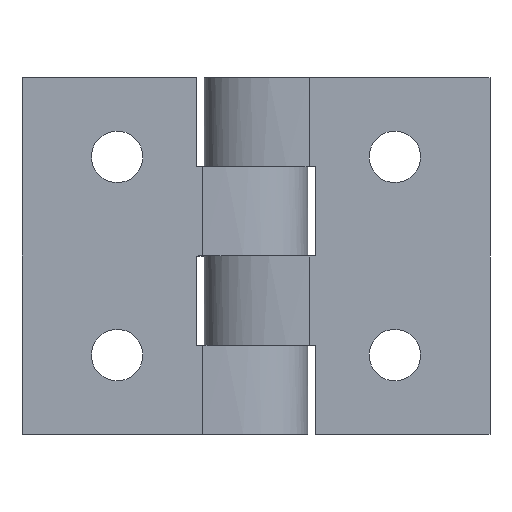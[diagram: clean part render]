
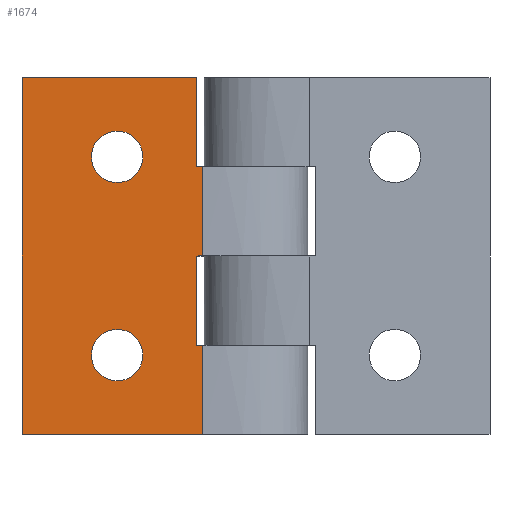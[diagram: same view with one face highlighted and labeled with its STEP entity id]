
A CAD part, front view. The second image highlights one B-rep face of the part: STEP entity #1674.
In plain terms, the highlighted planar face has unit normal (0, -1, 0).
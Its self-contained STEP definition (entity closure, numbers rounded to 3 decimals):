
#35 = CARTESIAN_POINT ( 'NONE',  ( 6.374, -5.199, 67.5 ) ) ;
#57 = EDGE_CURVE ( 'NONE', #895, #1514, #1770, .T. ) ;
#71 = DIRECTION ( 'NONE',  ( 0., 1., 0. ) ) ;
#76 = LINE ( 'NONE', #2007, #2034 ) ;
#122 = EDGE_CURVE ( 'NONE', #1059, #1448, #1355, .T. ) ;
#133 = CARTESIAN_POINT ( 'NONE',  ( -0.386, -5.199, 57.5 ) ) ;
#167 = CARTESIAN_POINT ( 'NONE',  ( 7.173, -5.199, 45. ) ) ;
#173 = DIRECTION ( 'NONE',  ( 0., 1., 0. ) ) ;
#180 = ORIENTED_EDGE ( 'NONE', *, *, #1062, .T. ) ;
#183 = AXIS2_PLACEMENT_3D ( 'NONE', #978, #760, #532 ) ;
#191 = ORIENTED_EDGE ( 'NONE', *, *, #878, .T. ) ;
#205 = EDGE_CURVE ( 'NONE', #1514, #1059, #638, .T. ) ;
#241 = VECTOR ( 'NONE', #909, 1000. ) ;
#249 = LINE ( 'NONE', #35, #1098 ) ;
#312 = CIRCLE ( 'NONE', #1585, 3.25 ) ;
#324 = FACE_BOUND ( 'NONE', #475, .T. ) ;
#335 = AXIS2_PLACEMENT_3D ( 'NONE', #1845, #1627, #1402 ) ;
#386 = CARTESIAN_POINT ( 'NONE',  ( 6.374, -5.199, 45. ) ) ;
#388 = AXIS2_PLACEMENT_3D ( 'NONE', #507, #71, #2004 ) ;
#466 = VECTOR ( 'NONE', #1447, 1000. ) ;
#475 = EDGE_LOOP ( 'NONE', ( #1919, #180 ) ) ;
#476 = CARTESIAN_POINT ( 'NONE',  ( -0.386, -5.199, 32.5 ) ) ;
#486 = VERTEX_POINT ( 'NONE', #1047 ) ;
#505 = ORIENTED_EDGE ( 'NONE', *, *, #932, .F. ) ;
#507 = CARTESIAN_POINT ( 'NONE',  ( -3.636, -5.199, 32.5 ) ) ;
#511 = DIRECTION ( 'NONE',  ( 0., 0., -1. ) ) ;
#532 = DIRECTION ( 'NONE',  ( -1., 0., 0. ) ) ;
#541 = EDGE_CURVE ( 'NONE', #486, #1384, #1884, .T. ) ;
#549 = FACE_BOUND ( 'NONE', #1147, .T. ) ;
#582 = VECTOR ( 'NONE', #1912, 1000. ) ;
#615 = ORIENTED_EDGE ( 'NONE', *, *, #2076, .F. ) ;
#634 = DIRECTION ( 'NONE',  ( -1., 0., 0. ) ) ;
#638 = LINE ( 'NONE', #2128, #582 ) ;
#643 = ORIENTED_EDGE ( 'NONE', *, *, #541, .T. ) ;
#663 = EDGE_CURVE ( 'NONE', #1701, #1256, #1207, .T. ) ;
#666 = FACE_OUTER_BOUND ( 'NONE', #1819, .T. ) ;
#712 = CIRCLE ( 'NONE', #183, 3.25 ) ;
#714 = EDGE_CURVE ( 'NONE', #902, #1124, #1546, .T. ) ;
#733 = ORIENTED_EDGE ( 'NONE', *, *, #1004, .F. ) ;
#738 = CARTESIAN_POINT ( 'NONE',  ( -15.636, -5.199, 67.5 ) ) ;
#760 = DIRECTION ( 'NONE',  ( 0., 1., 0. ) ) ;
#761 = ORIENTED_EDGE ( 'NONE', *, *, #1271, .F. ) ;
#763 = CARTESIAN_POINT ( 'NONE',  ( 6.374, -5.199, 56.25 ) ) ;
#780 = AXIS2_PLACEMENT_3D ( 'NONE', #1074, #856, #634 ) ;
#799 = ORIENTED_EDGE ( 'NONE', *, *, #57, .F. ) ;
#800 = CARTESIAN_POINT ( 'NONE',  ( -6.886, -5.199, 32.5 ) ) ;
#839 = CARTESIAN_POINT ( 'NONE',  ( -3.636, -5.199, 57.5 ) ) ;
#856 = DIRECTION ( 'NONE',  ( 0., 1., 0. ) ) ;
#871 = VERTEX_POINT ( 'NONE', #1198 ) ;
#878 = EDGE_CURVE ( 'NONE', #1124, #902, #712, .T. ) ;
#883 = ORIENTED_EDGE ( 'NONE', *, *, #1926, .T. ) ;
#895 = VERTEX_POINT ( 'NONE', #1598 ) ;
#902 = VERTEX_POINT ( 'NONE', #476 ) ;
#909 = DIRECTION ( 'NONE',  ( 0., 0., -1. ) ) ;
#910 = VECTOR ( 'NONE', #1664, 1000. ) ;
#932 = EDGE_CURVE ( 'NONE', #1722, #1501, #2096, .T. ) ;
#962 = LINE ( 'NONE', #738, #1521 ) ;
#978 = CARTESIAN_POINT ( 'NONE',  ( -3.636, -5.199, 32.5 ) ) ;
#1004 = EDGE_CURVE ( 'NONE', #1790, #895, #1556, .T. ) ;
#1023 = CARTESIAN_POINT ( 'NONE',  ( -15.636, -5.199, 67.5 ) ) ;
#1047 = CARTESIAN_POINT ( 'NONE',  ( -15.636, -5.199, 22.5 ) ) ;
#1059 = VERTEX_POINT ( 'NONE', #386 ) ;
#1062 = EDGE_CURVE ( 'NONE', #1256, #1701, #312, .T. ) ;
#1074 = CARTESIAN_POINT ( 'NONE',  ( 7.173, -5.199, 67.5 ) ) ;
#1097 = DIRECTION ( 'NONE',  ( 0., 0., -1. ) ) ;
#1098 = VECTOR ( 'NONE', #1971, 1000. ) ;
#1109 = DIRECTION ( 'NONE',  ( 1., 0., 0. ) ) ;
#1124 = VERTEX_POINT ( 'NONE', #800 ) ;
#1131 = CARTESIAN_POINT ( 'NONE',  ( 6.374, -5.199, 45. ) ) ;
#1147 = EDGE_LOOP ( 'NONE', ( #191, #1958 ) ) ;
#1181 = VECTOR ( 'NONE', #1097, 1000. ) ;
#1197 = ORIENTED_EDGE ( 'NONE', *, *, #205, .F. ) ;
#1198 = CARTESIAN_POINT ( 'NONE',  ( 7.173, -5.199, 33.75 ) ) ;
#1206 = VECTOR ( 'NONE', #1310, 1000. ) ;
#1207 = CIRCLE ( 'NONE', #335, 3.25 ) ;
#1256 = VERTEX_POINT ( 'NONE', #133 ) ;
#1271 = EDGE_CURVE ( 'NONE', #1448, #871, #76, .T. ) ;
#1298 = PLANE ( 'NONE',  #780 ) ;
#1310 = DIRECTION ( 'NONE',  ( 0., 0., -1. ) ) ;
#1316 = CARTESIAN_POINT ( 'NONE',  ( 7.173, -5.199, 67.5 ) ) ;
#1332 = CARTESIAN_POINT ( 'NONE',  ( 20.374, -5.199, 56.25 ) ) ;
#1355 = LINE ( 'NONE', #1131, #241 ) ;
#1380 = CARTESIAN_POINT ( 'NONE',  ( 6.374, -5.199, 33.75 ) ) ;
#1384 = VERTEX_POINT ( 'NONE', #1420 ) ;
#1402 = DIRECTION ( 'NONE',  ( -1., 0., 0. ) ) ;
#1418 = VECTOR ( 'NONE', #1109, 1000. ) ;
#1420 = CARTESIAN_POINT ( 'NONE',  ( 7.173, -5.199, 22.5 ) ) ;
#1447 = DIRECTION ( 'NONE',  ( 1., 0., 0. ) ) ;
#1448 = VERTEX_POINT ( 'NONE', #1380 ) ;
#1453 = ORIENTED_EDGE ( 'NONE', *, *, #122, .F. ) ;
#1501 = VERTEX_POINT ( 'NONE', #1719 ) ;
#1514 = VERTEX_POINT ( 'NONE', #167 ) ;
#1521 = VECTOR ( 'NONE', #511, 1000. ) ;
#1535 = CARTESIAN_POINT ( 'NONE',  ( 7.173, -5.199, 67.5 ) ) ;
#1546 = CIRCLE ( 'NONE', #388, 3.25 ) ;
#1556 = LINE ( 'NONE', #1332, #1418 ) ;
#1585 = AXIS2_PLACEMENT_3D ( 'NONE', #839, #173, #2110 ) ;
#1598 = CARTESIAN_POINT ( 'NONE',  ( 7.173, -5.199, 56.25 ) ) ;
#1627 = DIRECTION ( 'NONE',  ( 0., 1., 0. ) ) ;
#1664 = DIRECTION ( 'NONE',  ( 1., 0., 0. ) ) ;
#1665 = CARTESIAN_POINT ( 'NONE',  ( 7.173, -5.199, 22.5 ) ) ;
#1674 = ADVANCED_FACE ( 'NONE', ( #324, #549, #666 ), #1298, .F. ) ;
#1701 = VERTEX_POINT ( 'NONE', #2125 ) ;
#1719 = CARTESIAN_POINT ( 'NONE',  ( 6.374, -5.199, 67.5 ) ) ;
#1722 = VERTEX_POINT ( 'NONE', #1023 ) ;
#1762 = LINE ( 'NONE', #1535, #1206 ) ;
#1770 = LINE ( 'NONE', #1316, #1181 ) ;
#1790 = VERTEX_POINT ( 'NONE', #763 ) ;
#1800 = DIRECTION ( 'NONE',  ( 1., 0., 0. ) ) ;
#1819 = EDGE_LOOP ( 'NONE', ( #615, #761, #1453, #1197, #799, #733, #1991, #505, #883, #643 ) ) ;
#1845 = CARTESIAN_POINT ( 'NONE',  ( -3.636, -5.199, 57.5 ) ) ;
#1883 = CARTESIAN_POINT ( 'NONE',  ( 7.173, -5.199, 67.5 ) ) ;
#1884 = LINE ( 'NONE', #1665, #466 ) ;
#1912 = DIRECTION ( 'NONE',  ( -1., 0., 0. ) ) ;
#1919 = ORIENTED_EDGE ( 'NONE', *, *, #663, .T. ) ;
#1926 = EDGE_CURVE ( 'NONE', #1722, #486, #962, .T. ) ;
#1958 = ORIENTED_EDGE ( 'NONE', *, *, #714, .T. ) ;
#1971 = DIRECTION ( 'NONE',  ( 0., 0., -1. ) ) ;
#1991 = ORIENTED_EDGE ( 'NONE', *, *, #2069, .F. ) ;
#2004 = DIRECTION ( 'NONE',  ( -1., 0., 0. ) ) ;
#2007 = CARTESIAN_POINT ( 'NONE',  ( 20.374, -5.199, 33.75 ) ) ;
#2034 = VECTOR ( 'NONE', #1800, 1000. ) ;
#2069 = EDGE_CURVE ( 'NONE', #1501, #1790, #249, .T. ) ;
#2076 = EDGE_CURVE ( 'NONE', #871, #1384, #1762, .T. ) ;
#2096 = LINE ( 'NONE', #1883, #910 ) ;
#2110 = DIRECTION ( 'NONE',  ( -1., 0., 0. ) ) ;
#2125 = CARTESIAN_POINT ( 'NONE',  ( -6.886, -5.199, 57.5 ) ) ;
#2128 = CARTESIAN_POINT ( 'NONE',  ( 20.374, -5.199, 45. ) ) ;
